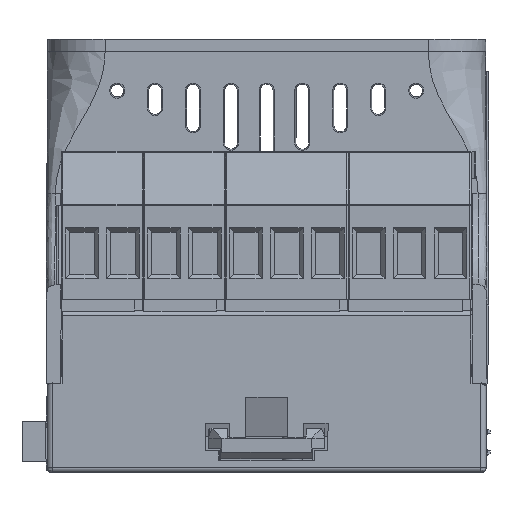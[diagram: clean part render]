
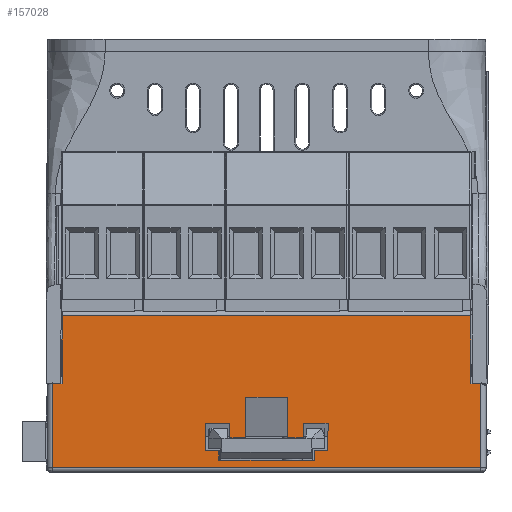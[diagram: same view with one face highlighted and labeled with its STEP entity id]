
A CAD part, front view. The second image highlights one B-rep face of the part: STEP entity #157028.
In plain terms, the highlighted planar face has unit normal (0, -1, 0).
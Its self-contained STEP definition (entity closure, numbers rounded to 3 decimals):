
#1050=FACE_BOUND('',#23155,.T.);
#7734=PLANE('',#165877);
#14819=FACE_OUTER_BOUND('',#23154,.T.);
#23154=EDGE_LOOP('',(#117788,#117789,#117790,#117791,#117792,#117793,#117794,
#117795,#117796,#117797));
#23155=EDGE_LOOP('',(#117798,#117799,#117800,#117801,#117802,#117803,#117804,
#117805,#117806,#117807,#117808,#117809,#117810,#117811,#117812,#117813));
#35093=LINE('',#234750,#53181);
#35257=LINE('',#236672,#53345);
#35313=LINE('',#237197,#53401);
#35316=LINE('',#237208,#53404);
#35340=LINE('',#237272,#53428);
#35381=LINE('',#237354,#53469);
#35948=LINE('',#238691,#54036);
#35951=LINE('',#238696,#54039);
#35953=LINE('',#238700,#54041);
#35955=LINE('',#238704,#54043);
#35959=LINE('',#238710,#54047);
#35961=LINE('',#238714,#54049);
#35962=LINE('',#238717,#54050);
#35965=LINE('',#238722,#54053);
#35967=LINE('',#238726,#54055);
#35969=LINE('',#238730,#54057);
#35972=LINE('',#238735,#54060);
#35974=LINE('',#238739,#54062);
#35977=LINE('',#238744,#54065);
#35978=LINE('',#238747,#54066);
#35980=LINE('',#238751,#54068);
#35982=LINE('',#238754,#54070);
#35983=LINE('',#238757,#54071);
#36177=LINE('',#239263,#54265);
#36179=LINE('',#239266,#54267);
#36198=LINE('',#239310,#54286);
#53181=VECTOR('',#184100,1.);
#53345=VECTOR('',#184568,1.);
#53401=VECTOR('',#184962,1.);
#53404=VECTOR('',#184975,1.);
#53428=VECTOR('',#185021,1.);
#53469=VECTOR('',#185096,1.);
#54036=VECTOR('',#186281,1.);
#54039=VECTOR('',#186286,1.);
#54041=VECTOR('',#186290,1.);
#54043=VECTOR('',#186294,1.);
#54047=VECTOR('',#186300,1.);
#54049=VECTOR('',#186304,1.);
#54050=VECTOR('',#186307,1.);
#54053=VECTOR('',#186312,1.);
#54055=VECTOR('',#186316,1.);
#54057=VECTOR('',#186320,1.);
#54060=VECTOR('',#186325,1.);
#54062=VECTOR('',#186329,1.);
#54065=VECTOR('',#186334,1.);
#54066=VECTOR('',#186337,1.);
#54068=VECTOR('',#186341,1.);
#54070=VECTOR('',#186345,1.);
#54071=VECTOR('',#186348,1.);
#54265=VECTOR('',#186830,1.);
#54267=VECTOR('',#186834,1.);
#54286=VECTOR('',#186881,1.);
#69961=VERTEX_POINT('',#233970);
#70045=VERTEX_POINT('',#234748);
#70184=VERTEX_POINT('',#236669);
#70185=VERTEX_POINT('',#236671);
#70305=VERTEX_POINT('',#237195);
#70308=VERTEX_POINT('',#237207);
#70336=VERTEX_POINT('',#237269);
#70337=VERTEX_POINT('',#237271);
#70792=VERTEX_POINT('',#238592);
#70812=VERTEX_POINT('',#238688);
#70813=VERTEX_POINT('',#238690);
#70814=VERTEX_POINT('',#238694);
#70815=VERTEX_POINT('',#238698);
#70816=VERTEX_POINT('',#238703);
#70817=VERTEX_POINT('',#238708);
#70818=VERTEX_POINT('',#238712);
#70819=VERTEX_POINT('',#238716);
#70820=VERTEX_POINT('',#238721);
#70821=VERTEX_POINT('',#238725);
#70822=VERTEX_POINT('',#238729);
#70823=VERTEX_POINT('',#238734);
#70824=VERTEX_POINT('',#238738);
#70825=VERTEX_POINT('',#238742);
#70826=VERTEX_POINT('',#238746);
#70827=VERTEX_POINT('',#238750);
#70828=VERTEX_POINT('',#238756);
#86665=EDGE_CURVE('',#69961,#70045,#35093,.T.);
#86919=EDGE_CURVE('',#70185,#70184,#35257,.T.);
#87076=EDGE_CURVE('',#70045,#70305,#35313,.T.);
#87081=EDGE_CURVE('',#70308,#70185,#35316,.T.);
#87112=EDGE_CURVE('',#70337,#70336,#35340,.T.);
#87156=EDGE_CURVE('',#70308,#70336,#35381,.T.);
#87828=EDGE_CURVE('',#70813,#70812,#35948,.T.);
#87831=EDGE_CURVE('',#70814,#70813,#35951,.T.);
#87833=EDGE_CURVE('',#70814,#70815,#35953,.T.);
#87835=EDGE_CURVE('',#70815,#70816,#35955,.T.);
#87839=EDGE_CURVE('',#70817,#70816,#35959,.T.);
#87841=EDGE_CURVE('',#70817,#70818,#35961,.T.);
#87842=EDGE_CURVE('',#70819,#70818,#35962,.T.);
#87845=EDGE_CURVE('',#70819,#70820,#35965,.T.);
#87847=EDGE_CURVE('',#70821,#70820,#35967,.T.);
#87849=EDGE_CURVE('',#70821,#70822,#35969,.T.);
#87852=EDGE_CURVE('',#70822,#70823,#35972,.T.);
#87854=EDGE_CURVE('',#70824,#70823,#35974,.T.);
#87857=EDGE_CURVE('',#70825,#70824,#35977,.T.);
#87858=EDGE_CURVE('',#70826,#70825,#35978,.T.);
#87860=EDGE_CURVE('',#70827,#70826,#35980,.T.);
#87862=EDGE_CURVE('',#70812,#70827,#35982,.T.);
#87863=EDGE_CURVE('',#70828,#70792,#35983,.T.);
#88091=EDGE_CURVE('',#70792,#69961,#36177,.T.);
#88093=EDGE_CURVE('',#70305,#70337,#36179,.T.);
#88115=EDGE_CURVE('',#70184,#70828,#36198,.T.);
#117788=ORIENTED_EDGE('',*,*,#88115,.T.);
#117789=ORIENTED_EDGE('',*,*,#87863,.T.);
#117790=ORIENTED_EDGE('',*,*,#88091,.T.);
#117791=ORIENTED_EDGE('',*,*,#86665,.T.);
#117792=ORIENTED_EDGE('',*,*,#87076,.T.);
#117793=ORIENTED_EDGE('',*,*,#88093,.T.);
#117794=ORIENTED_EDGE('',*,*,#87112,.T.);
#117795=ORIENTED_EDGE('',*,*,#87156,.F.);
#117796=ORIENTED_EDGE('',*,*,#87081,.T.);
#117797=ORIENTED_EDGE('',*,*,#86919,.T.);
#117798=ORIENTED_EDGE('',*,*,#87862,.T.);
#117799=ORIENTED_EDGE('',*,*,#87860,.T.);
#117800=ORIENTED_EDGE('',*,*,#87858,.T.);
#117801=ORIENTED_EDGE('',*,*,#87857,.T.);
#117802=ORIENTED_EDGE('',*,*,#87854,.T.);
#117803=ORIENTED_EDGE('',*,*,#87852,.F.);
#117804=ORIENTED_EDGE('',*,*,#87849,.F.);
#117805=ORIENTED_EDGE('',*,*,#87847,.T.);
#117806=ORIENTED_EDGE('',*,*,#87845,.F.);
#117807=ORIENTED_EDGE('',*,*,#87842,.T.);
#117808=ORIENTED_EDGE('',*,*,#87841,.F.);
#117809=ORIENTED_EDGE('',*,*,#87839,.T.);
#117810=ORIENTED_EDGE('',*,*,#87835,.F.);
#117811=ORIENTED_EDGE('',*,*,#87833,.F.);
#117812=ORIENTED_EDGE('',*,*,#87831,.T.);
#117813=ORIENTED_EDGE('',*,*,#87828,.T.);
#157028=ADVANCED_FACE('',(#14819,#1050),#7734,.F.);
#165877=AXIS2_PLACEMENT_3D('',#239309,#186879,#186880);
#184100=DIRECTION('',(-1.,0.,0.));
#184568=DIRECTION('',(-1.,0.,0.));
#184962=DIRECTION('',(-1.,0.,0.));
#184975=DIRECTION('',(-1.,0.,0.));
#185021=DIRECTION('',(-1.,0.,0.));
#185096=DIRECTION('',(0.,0.,1.));
#186281=DIRECTION('',(1.,0.,0.));
#186286=DIRECTION('',(-0.009,0.,-1.));
#186290=DIRECTION('',(-1.,0.,0.009));
#186294=DIRECTION('',(0.009,0.,-1.));
#186300=DIRECTION('',(-1.,0.,0.));
#186304=DIRECTION('',(0.009,0.,-1.));
#186307=DIRECTION('',(-1.,0.,0.));
#186312=DIRECTION('',(0.009,0.,1.));
#186316=DIRECTION('',(-1.,0.,0.));
#186320=DIRECTION('',(0.009,0.,1.));
#186325=DIRECTION('',(-1.,0.,-0.009));
#186329=DIRECTION('',(-0.009,0.,1.));
#186334=DIRECTION('',(1.,0.,0.));
#186337=DIRECTION('',(0.,0.,-1.));
#186341=DIRECTION('',(1.,0.,0.));
#186345=DIRECTION('',(0.,0.,1.));
#186348=DIRECTION('',(1.,0.,0.));
#186830=DIRECTION('',(0.,0.,1.));
#186834=DIRECTION('',(0.,0.,1.));
#186879=DIRECTION('center_axis',(0.,1.,0.));
#186880=DIRECTION('ref_axis',(0.,0.,
1.));
#186881=DIRECTION('',(0.,0.,-1.));
#233970=CARTESIAN_POINT('',(26.15,-44.644,4.871));
#234748=CARTESIAN_POINT('',(25.14,-44.644,4.871));
#234750=CARTESIAN_POINT('',(25.908,-44.644,4.871));
#236669=CARTESIAN_POINT('',(-26.15,-44.644,4.871));
#236671=CARTESIAN_POINT('',(-25.14,-44.644,4.871));
#236672=CARTESIAN_POINT('',(-25.908,-44.644,4.871));
#237195=CARTESIAN_POINT('',(24.941,-44.644,4.871));
#237197=CARTESIAN_POINT('',(25.908,-44.644,4.871));
#237207=CARTESIAN_POINT('',(-24.941,-44.644,4.871));
#237208=CARTESIAN_POINT('',(-25.908,-44.644,4.871));
#237269=CARTESIAN_POINT('',(-24.941,-44.644,13.156));
#237271=CARTESIAN_POINT('',(24.941,-44.644,13.156));
#237272=CARTESIAN_POINT('',(-38.979,-44.644,13.156));
#237354=CARTESIAN_POINT('',(-24.941,-44.644,17.506));
#238592=CARTESIAN_POINT('',(26.15,-44.644,-5.4));
#238688=CARTESIAN_POINT('',(-2.55,-44.644,-1.725));
#238690=CARTESIAN_POINT('',(-4.498,-44.644,-1.725));
#238691=CARTESIAN_POINT('',(38.979,-44.644,-1.725));
#238694=CARTESIAN_POINT('',(-4.483,-44.644,-0.015));
#238696=CARTESIAN_POINT('',(-4.443,-44.644,4.558));
#238698=CARTESIAN_POINT('',(-7.496,-44.644,0.011));
#238700=CARTESIAN_POINT('',(-3.784,-44.644,-0.021));
#238703=CARTESIAN_POINT('',(-7.467,-44.644,-3.32));
#238704=CARTESIAN_POINT('',(-7.645,-44.644,17.1));
#238708=CARTESIAN_POINT('',(-5.867,-44.644,-3.32));
#238710=CARTESIAN_POINT('',(-3.728,-44.644,-3.32));
#238712=CARTESIAN_POINT('',(-5.857,-44.644,-4.5));
#238714=CARTESIAN_POINT('',(-5.855,-44.644,-4.646));
#238716=CARTESIAN_POINT('',(5.857,-44.644,-4.5));
#238717=CARTESIAN_POINT('',(-38.979,-44.644,-4.5));
#238721=CARTESIAN_POINT('',(5.867,-44.644,-3.32));
#238722=CARTESIAN_POINT('',(5.855,-44.644,-4.646));
#238725=CARTESIAN_POINT('',(7.467,-44.644,-3.32));
#238726=CARTESIAN_POINT('',(3.728,-44.644,-3.32));
#238729=CARTESIAN_POINT('',(7.496,-44.644,0.011));
#238730=CARTESIAN_POINT('',(7.645,-44.644,17.1));
#238734=CARTESIAN_POINT('',(4.483,-44.644,-0.015));
#238735=CARTESIAN_POINT('',(3.784,-44.644,-0.021));
#238738=CARTESIAN_POINT('',(4.498,-44.644,-1.725));
#238739=CARTESIAN_POINT('',(4.443,-44.644,4.558));
#238742=CARTESIAN_POINT('',(2.55,-44.644,-1.725));
#238744=CARTESIAN_POINT('',(-38.979,-44.644,-1.725));
#238746=CARTESIAN_POINT('',(2.55,-44.644,3.175));
#238747=CARTESIAN_POINT('',(2.55,-44.644,6.016));
#238750=CARTESIAN_POINT('',(-2.55,-44.644,3.175));
#238751=CARTESIAN_POINT('',(-38.979,-44.644,3.175));
#238754=CARTESIAN_POINT('',(-2.55,-44.644,6.016));
#238756=CARTESIAN_POINT('',(-26.15,-44.644,-5.4));
#238757=CARTESIAN_POINT('',(26.15,-44.644,-5.4));
#239263=CARTESIAN_POINT('',(26.15,-44.644,17.506));
#239266=CARTESIAN_POINT('',(24.941,-44.644,17.506));
#239309=CARTESIAN_POINT('Origin',(-38.979,-44.644,17.506));
#239310=CARTESIAN_POINT('',(-26.15,-44.644,17.506));
